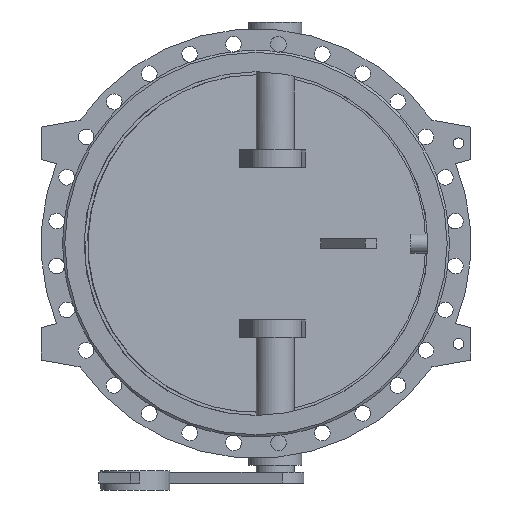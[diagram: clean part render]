
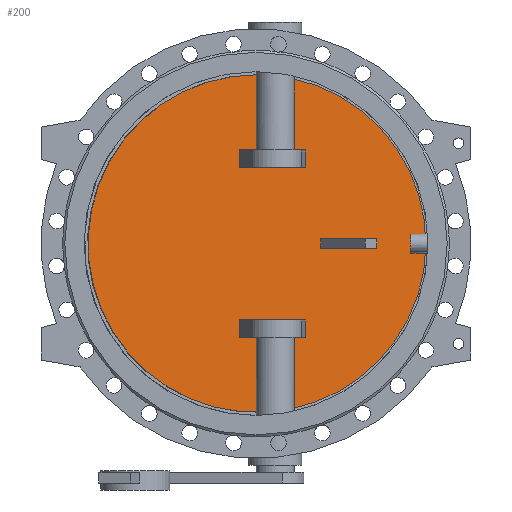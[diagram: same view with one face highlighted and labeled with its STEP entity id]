
A CAD part, front view. The second image highlights one B-rep face of the part: STEP entity #200.
In plain terms, the highlighted planar face has unit normal (0.131, -0.991, 0).
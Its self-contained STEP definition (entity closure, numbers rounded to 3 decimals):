
#200=ADVANCED_FACE('',(#1583,#1585,#1587,#1589),#1591,.T.);
#1583=FACE_BOUND('',#1584,.T.);
#1584=EDGE_LOOP('',(#3092));
#1585=FACE_BOUND('',#1586,.T.);
#1586=EDGE_LOOP('',(#3093,#3094,#3095,#3096));
#1587=FACE_BOUND('',#1588,.T.);
#1588=EDGE_LOOP('',(#3097,#3098,#3099,#3100));
#1589=FACE_BOUND('',#1590,.T.);
#1590=EDGE_LOOP('',(#3101,#3102,#3103,#3104));
#1591=PLANE('',#1592);
#1592=AXIS2_PLACEMENT_3D('',#1593,#1594,#1595);
#1593=CARTESIAN_POINT('',(-1.272,9.66,0.));
#1594=DIRECTION('',(0.131,-0.991,0.));
#1595=DIRECTION('',(0.,0.,-1.));
#3092=ORIENTED_EDGE('',*,*,#3932,.T.);
#3093=ORIENTED_EDGE('',*,*,#4048,.F.);
#3094=ORIENTED_EDGE('',*,*,#4049,.F.);
#3095=ORIENTED_EDGE('',*,*,#4050,.F.);
#3096=ORIENTED_EDGE('',*,*,#4051,.F.);
#3097=ORIENTED_EDGE('',*,*,#4052,.F.);
#3098=ORIENTED_EDGE('',*,*,#4053,.F.);
#3099=ORIENTED_EDGE('',*,*,#4054,.F.);
#3100=ORIENTED_EDGE('',*,*,#4055,.F.);
#3101=ORIENTED_EDGE('',*,*,#4056,.F.);
#3102=ORIENTED_EDGE('',*,*,#4057,.F.);
#3103=ORIENTED_EDGE('',*,*,#4058,.F.);
#3104=ORIENTED_EDGE('',*,*,#4059,.F.);
#3932=EDGE_CURVE('',#4443,#4443,#4444,.T.);
#4048=EDGE_CURVE('',#4675,#4676,#4677,.T.);
#4049=EDGE_CURVE('',#4678,#4675,#4679,.F.);
#4050=EDGE_CURVE('',#4680,#4678,#4681,.T.);
#4051=EDGE_CURVE('',#4676,#4680,#4682,.T.);
#4052=EDGE_CURVE('',#4683,#4684,#4685,.F.);
#4053=EDGE_CURVE('',#4686,#4683,#4687,.T.);
#4054=EDGE_CURVE('',#4688,#4686,#4689,.T.);
#4055=EDGE_CURVE('',#4684,#4688,#4690,.T.);
#4056=EDGE_CURVE('',#4691,#4692,#4693,.T.);
#4057=EDGE_CURVE('',#4694,#4691,#4695,.F.);
#4058=EDGE_CURVE('',#4696,#4694,#4697,.F.);
#4059=EDGE_CURVE('',#4692,#4696,#4698,.F.);
#4443=VERTEX_POINT('',#5902);
#4444=B_SPLINE_CURVE_WITH_KNOTS('',3,
(#5903,#5904,#5905,#5906,#5907,#5908,#5909,#5910,#5911,#5912,#5913,#5914,#5915,#5916,
#5917,#5918,#5919,#5920,#5921,#5922,#5923,#5924,#5925,#5926,#5927,#5928,#5929,#5930,
#5931,#5932,#5933,#5934,#5935,#5936,#5937,#5938,#5939,#5940,#5941,#5942,#5943,#5944,
#5945,#5946,#5947,#5948,#5949,#5950,#5951,#5952,#5953),
.UNSPECIFIED.,.T.,.F.,
(4,1,1,1,1,1,1,1,1,1,1,1,1,1,1,1,1,1,1,1,1,1,1,1,1,1,1,1,1,1,1,1,1,1,1,1,1,1,1,1,
1,1,1,1,1,1,1,1,4),
(0.,0.021,0.042,0.063,0.084,
0.105,0.126,0.147,0.168,0.189,
0.211,0.232,0.253,0.274,0.295,
0.316,0.337,0.358,0.379,0.4,
0.421,0.442,0.463,0.484,0.505,
0.527,0.548,0.569,0.59,0.611,
0.632,0.653,0.674,0.695,0.716,
0.737,0.758,0.779,0.8,0.821,
0.842,0.864,0.885,0.906,0.927,
0.948,0.969,0.986,1.),
.UNSPECIFIED.);
#4675=VERTEX_POINT('',#9368);
#4676=VERTEX_POINT('',#9369);
#4677=LINE('',#9370,#9371);
#4678=VERTEX_POINT('',#9373);
#4679=LINE('',#9374,#9375);
#4680=VERTEX_POINT('',#9377);
#4681=LINE('',#9378,#9379);
#4682=LINE('',#9381,#9382);
#4683=VERTEX_POINT('',#9384);
#4684=VERTEX_POINT('',#9385);
#4685=LINE('',#9386,#9387);
#4686=VERTEX_POINT('',#9389);
#4687=LINE('',#9390,#9391);
#4688=VERTEX_POINT('',#9393);
#4689=LINE('',#9394,#9395);
#4690=LINE('',#9397,#9398);
#4691=VERTEX_POINT('',#9400);
#4692=VERTEX_POINT('',#9401);
#4693=LINE('',#9402,#9403);
#4694=VERTEX_POINT('',#9405);
#4695=LINE('',#9406,#9407);
#4696=VERTEX_POINT('',#9409);
#4697=LINE('',#9410,#9411);
#4698=LINE('',#9413,#9414);
#5902=CARTESIAN_POINT('',(2.611,10.171,442.));
#5903=CARTESIAN_POINT('',(2.611,10.171,442.));
#5904=CARTESIAN_POINT('',(-16.814,7.614,442.));
#5905=CARTESIAN_POINT('',(-55.709,2.493,439.433));
#5906=CARTESIAN_POINT('',(-113.11,-5.064,427.925));
#5907=CARTESIAN_POINT('',(-168.567,-12.365,408.921));
#5908=CARTESIAN_POINT('',(-221.061,-19.276,382.746));
#5909=CARTESIAN_POINT('',(-269.627,-25.67,349.883));
#5910=CARTESIAN_POINT('',(-313.427,-31.436,310.9));
#5911=CARTESIAN_POINT('',(-351.695,-36.474,266.485));
#5912=CARTESIAN_POINT('',(-383.763,-40.696,217.416));
#5913=CARTESIAN_POINT('',(-409.073,-44.028,164.549));
#5914=CARTESIAN_POINT('',(-427.186,-46.413,108.81));
#5915=CARTESIAN_POINT('',(-437.786,-47.808,51.171));
#5916=CARTESIAN_POINT('',(-440.688,-48.19,-7.361));
#5917=CARTESIAN_POINT('',(-435.843,-47.552,-65.765));
#5918=CARTESIAN_POINT('',(-423.335,-45.906,-123.022));
#5919=CARTESIAN_POINT('',(-403.379,-43.278,-178.132));
#5920=CARTESIAN_POINT('',(-376.324,-39.717,-230.132));
#5921=CARTESIAN_POINT('',(-342.639,-35.282,-278.114));
#5922=CARTESIAN_POINT('',(-302.912,-30.052,-321.237));
#5923=CARTESIAN_POINT('',(-257.834,-24.117,-358.745));
#5924=CARTESIAN_POINT('',(-208.194,-17.582,-389.98));
#5925=CARTESIAN_POINT('',(-154.858,-10.56,-414.392));
#5926=CARTESIAN_POINT('',(-98.761,-3.175,-431.551));
#5927=CARTESIAN_POINT('',(-40.887,4.445,-441.155));
#5928=CARTESIAN_POINT('',(17.75,12.164,-443.035));
#5929=CARTESIAN_POINT('',(76.121,19.849,-437.158));
#5930=CARTESIAN_POINT('',(133.201,27.364,-423.628));
#5931=CARTESIAN_POINT('',(187.99,34.577,-402.683));
#5932=CARTESIAN_POINT('',(239.529,41.362,-374.694));
#5933=CARTESIAN_POINT('',(286.917,47.601,-340.151));
#5934=CARTESIAN_POINT('',(329.326,53.184,-299.663));
#5935=CARTESIAN_POINT('',(366.016,58.014,-253.939));
#5936=CARTESIAN_POINT('',(396.348,62.008,-203.78));
#5937=CARTESIAN_POINT('',(419.795,65.094,-150.062));
#5938=CARTESIAN_POINT('',(435.948,67.221,-93.725));
#5939=CARTESIAN_POINT('',(444.526,68.35,-35.752));
#5940=CARTESIAN_POINT('',(445.381,68.463,22.846));
#5941=CARTESIAN_POINT('',(438.498,67.557,81.046));
#5942=CARTESIAN_POINT('',(423.995,65.647,137.831));
#5943=CARTESIAN_POINT('',(402.125,62.768,192.211));
#5944=CARTESIAN_POINT('',(373.267,58.969,243.236));
#5945=CARTESIAN_POINT('',(337.925,54.316,290.012));
#5946=CARTESIAN_POINT('',(296.711,48.89,331.723));
#5947=CARTESIAN_POINT('',(250.359,42.788,367.624));
#5948=CARTESIAN_POINT('',(199.733,36.123,397.062));
#5949=CARTESIAN_POINT('',(145.566,28.992,419.62));
#5950=CARTESIAN_POINT('',(92.142,21.958,433.952));
#5951=CARTESIAN_POINT('',(44.11,15.635,440.759));
#5952=CARTESIAN_POINT('',(15.294,11.841,442.));
#5953=CARTESIAN_POINT('',(2.611,10.171,442.));
#9368=CARTESIAN_POINT('',(293.931,48.524,-12.5));
#9369=CARTESIAN_POINT('',(293.931,48.524,12.5));
#9370=CARTESIAN_POINT('',(293.931,48.524,-12.5));
#9371=VECTOR('',#9372,1.);
#9372=DIRECTION('',(0.,0.,1.));
#9373=CARTESIAN_POINT('',(170.,32.208,-12.5));
#9374=CARTESIAN_POINT('',(293.931,48.524,-12.5));
#9375=VECTOR('',#9376,1.);
#9376=DIRECTION('',(-0.991,-0.131,0.));
#9377=CARTESIAN_POINT('',(170.,32.208,12.5));
#9378=CARTESIAN_POINT('',(170.,32.208,12.5));
#9379=VECTOR('',#9380,1.);
#9380=DIRECTION('',(0.,0.,-1.));
#9381=CARTESIAN_POINT('',(293.931,48.524,12.5));
#9382=VECTOR('',#9383,1.);
#9383=DIRECTION('',(-0.991,-0.131,0.));
#9384=CARTESIAN_POINT('',(-44.007,4.034,-245.));
#9385=CARTESIAN_POINT('',(129.407,26.864,-245.));
#9386=CARTESIAN_POINT('',(129.407,26.864,-245.));
#9387=VECTOR('',#9388,1.);
#9388=DIRECTION('',(-0.991,-0.131,0.));
#9389=CARTESIAN_POINT('',(-44.007,4.034,-200.));
#9390=CARTESIAN_POINT('',(-44.007,4.034,-200.));
#9391=VECTOR('',#9392,1.);
#9392=DIRECTION('',(0.,0.,-1.));
#9393=CARTESIAN_POINT('',(129.407,26.864,-200.));
#9394=CARTESIAN_POINT('',(129.407,26.864,-200.));
#9395=VECTOR('',#9396,1.);
#9396=DIRECTION('',(-0.991,-0.131,0.));
#9397=CARTESIAN_POINT('',(129.407,26.864,-245.));
#9398=VECTOR('',#9399,1.);
#9399=DIRECTION('',(0.,0.,1.));
#9400=CARTESIAN_POINT('',(129.407,26.864,245.));
#9401=CARTESIAN_POINT('',(-44.007,4.034,245.));
#9402=CARTESIAN_POINT('',(129.407,26.864,245.));
#9403=VECTOR('',#9404,1.);
#9404=DIRECTION('',(-0.991,-0.131,0.));
#9405=CARTESIAN_POINT('',(129.407,26.864,200.));
#9406=CARTESIAN_POINT('',(129.407,26.864,245.));
#9407=VECTOR('',#9408,1.);
#9408=DIRECTION('',(0.,0.,-1.));
#9409=CARTESIAN_POINT('',(-44.007,4.034,200.));
#9410=CARTESIAN_POINT('',(129.407,26.864,200.));
#9411=VECTOR('',#9412,1.);
#9412=DIRECTION('',(-0.991,-0.131,0.));
#9413=CARTESIAN_POINT('',(-44.007,4.034,200.));
#9414=VECTOR('',#9415,1.);
#9415=DIRECTION('',(0.,0.,1.));
